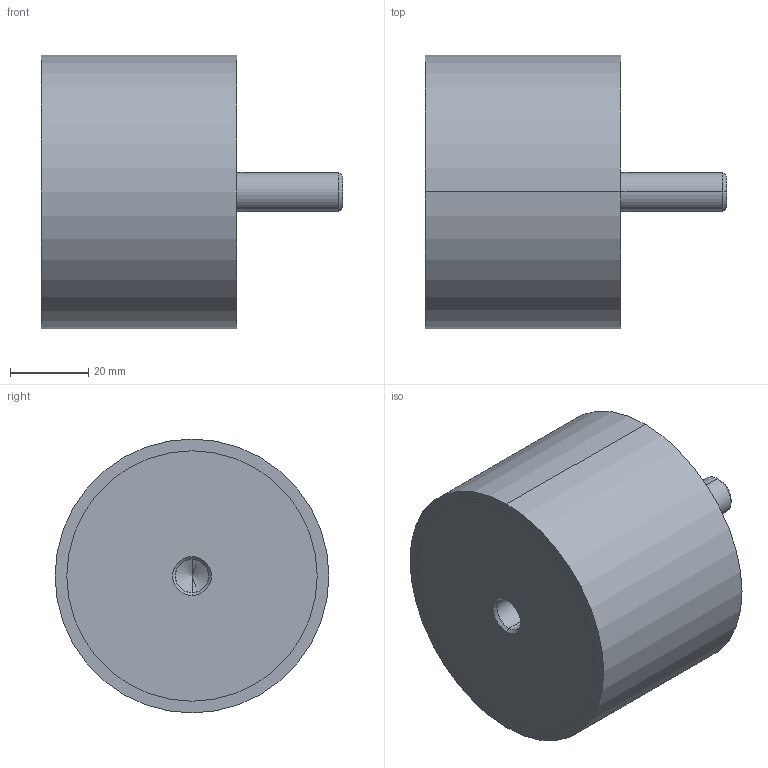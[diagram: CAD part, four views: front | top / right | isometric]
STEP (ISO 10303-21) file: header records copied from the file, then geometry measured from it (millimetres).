
FILE_DESCRIPTION (( 'STEP AP214' ), '1' );
FILE_NAME ('351-70-50-M10-ES-55.step', '2025-07-23T09:51:27', ( '' ), ( '' ), 'SwSTEP 2.0', 'SolidWorks 2022', '' );
FILE_SCHEMA (( 'AUTOMOTIVE_DESIGN' ));
Length unit declared in the file: millimetre
Products named in the file (1): 351-70-50-M10-ES-55
Bounding box: 77 x 70 x 70 mm (x, y, z)
Volume: 193779.1 mm3; surface area: 19822.5 mm2
Topology: 1 solids, 1 shells, 24 faces, 48 edges, 29 vertices
Faces by surface type: cylinder 12, cone 6, plane 6
Entity records: 740 total; most frequent: DIRECTION 124, CARTESIAN_POINT 100, ORIENTED_EDGE 92, AXIS2_PLACEMENT_3D 53, EDGE_CURVE 46, EDGE_LOOP 29, VERTEX_POINT 29, CIRCLE 28
